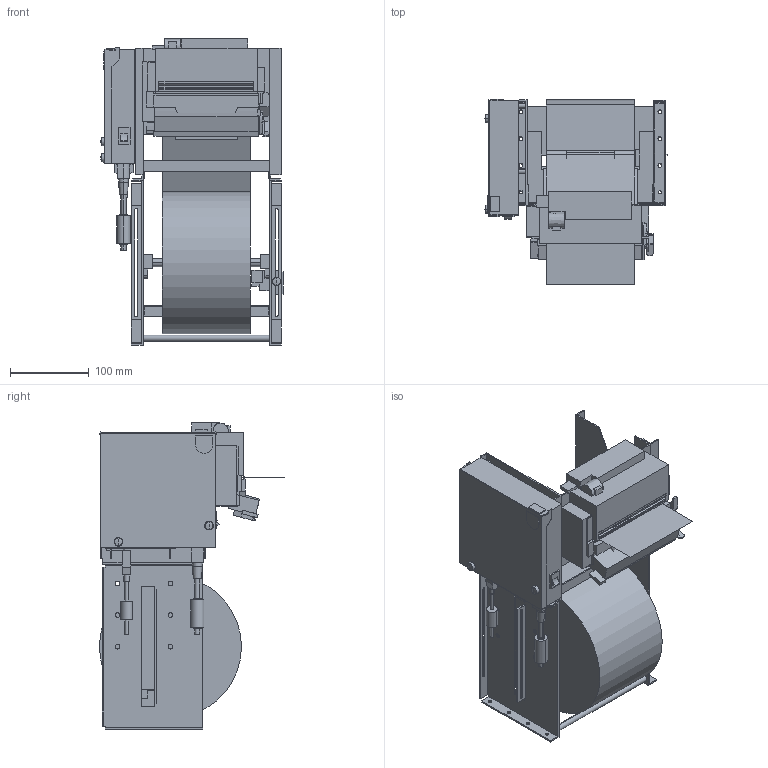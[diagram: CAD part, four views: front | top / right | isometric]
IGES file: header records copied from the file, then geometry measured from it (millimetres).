
Start section: Elysium IGES Interface
Global section: file name: X:\Sales\HP公開用\0916\TUP942_縦置USB_0920_out.igs,    ; native system: Unknown; preprocessor: Unknown; author: CADDoctor; organization: ELYSIUM; date: 20110921.081814; units: millimetre
Bounding box: 230.7 x 234.8 x 388.2 mm (x, y, z)
Volume: 5002890.4 mm3; surface area: 667743.7 mm2
Topology: 11 solids, 11 shells, 702 faces, 1924 edges, 1262 vertices
Faces by surface type: bspline 702
